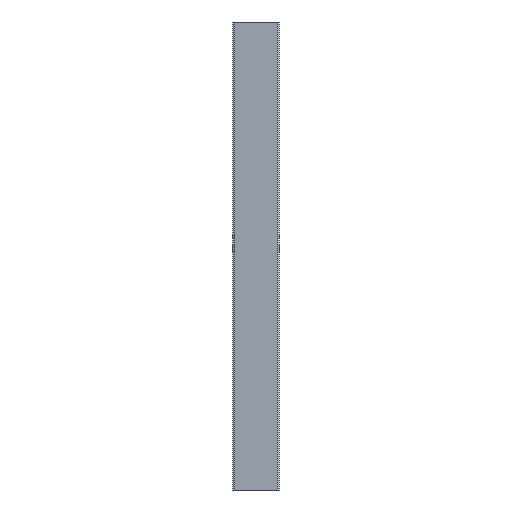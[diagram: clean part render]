
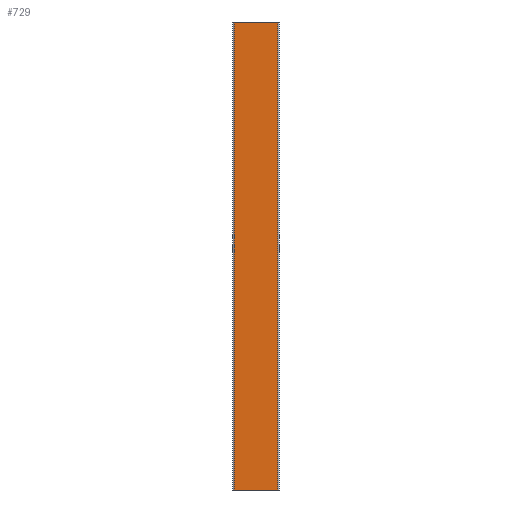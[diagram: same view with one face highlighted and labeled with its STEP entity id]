
A CAD part, front view. The second image highlights one B-rep face of the part: STEP entity #729.
In plain terms, the highlighted planar face has unit normal (0, -1, 0).
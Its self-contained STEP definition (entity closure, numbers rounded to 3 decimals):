
#18 = VERTEX_POINT ( 'NONE', #594 ) ;
#19 = CARTESIAN_POINT ( 'NONE',  ( -14., -7.5, 150. ) ) ;
#20 = LINE ( 'NONE', #846, #926 ) ;
#42 = ORIENTED_EDGE ( 'NONE', *, *, #962, .T. ) ;
#67 = DIRECTION ( 'NONE',  ( 0., 0., 1. ) ) ;
#86 = ORIENTED_EDGE ( 'NONE', *, *, #788, .F. ) ;
#89 = DIRECTION ( 'NONE',  ( 1., 0., 0. ) ) ;
#90 = EDGE_LOOP ( 'NONE', ( #253, #86, #656, #42 ) ) ;
#95 = CARTESIAN_POINT ( 'NONE',  ( 14., -7.5, 150. ) ) ;
#96 = VECTOR ( 'NONE', #931, 1000. ) ;
#130 = LINE ( 'NONE', #19, #96 ) ;
#174 = DIRECTION ( 'NONE',  ( 0., 1., 0. ) ) ;
#177 = AXIS2_PLACEMENT_3D ( 'NONE', #286, #174, #67 ) ;
#182 = CARTESIAN_POINT ( 'NONE',  ( 14., -7.5, 150. ) ) ;
#253 = ORIENTED_EDGE ( 'NONE', *, *, #824, .T. ) ;
#286 = CARTESIAN_POINT ( 'NONE',  ( -14., -7.5, 150. ) ) ;
#302 = CARTESIAN_POINT ( 'NONE',  ( -14., -7.5, -150. ) ) ;
#387 = PLANE ( 'NONE',  #177 ) ;
#398 = DIRECTION ( 'NONE',  ( 0., 0., -1. ) ) ;
#446 = EDGE_CURVE ( 'NONE', #18, #482, #20, .T. ) ;
#462 = VERTEX_POINT ( 'NONE', #679 ) ;
#482 = VERTEX_POINT ( 'NONE', #95 ) ;
#483 = CARTESIAN_POINT ( 'NONE',  ( 14., -7.5, -150. ) ) ;
#522 = VECTOR ( 'NONE', #89, 1000. ) ;
#594 = CARTESIAN_POINT ( 'NONE',  ( -14., -7.5, 150. ) ) ;
#642 = VECTOR ( 'NONE', #398, 1000. ) ;
#656 = ORIENTED_EDGE ( 'NONE', *, *, #446, .F. ) ;
#679 = CARTESIAN_POINT ( 'NONE',  ( -14., -7.5, -150. ) ) ;
#704 = LINE ( 'NONE', #182, #642 ) ;
#725 = VERTEX_POINT ( 'NONE', #483 ) ;
#729 = ADVANCED_FACE ( 'NONE', ( #922 ), #387, .F. ) ;
#761 = LINE ( 'NONE', #302, #522 ) ;
#788 = EDGE_CURVE ( 'NONE', #482, #725, #704, .T. ) ;
#824 = EDGE_CURVE ( 'NONE', #462, #725, #761, .T. ) ;
#846 = CARTESIAN_POINT ( 'NONE',  ( -14., -7.5, 150. ) ) ;
#922 = FACE_OUTER_BOUND ( 'NONE', #90, .T. ) ;
#926 = VECTOR ( 'NONE', #934, 1000. ) ;
#931 = DIRECTION ( 'NONE',  ( 0., 0., -1. ) ) ;
#934 = DIRECTION ( 'NONE',  ( 1., 0., 0. ) ) ;
#962 = EDGE_CURVE ( 'NONE', #18, #462, #130, .T. ) ;
